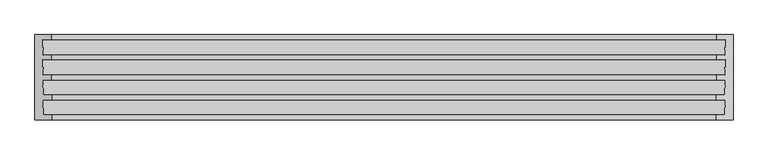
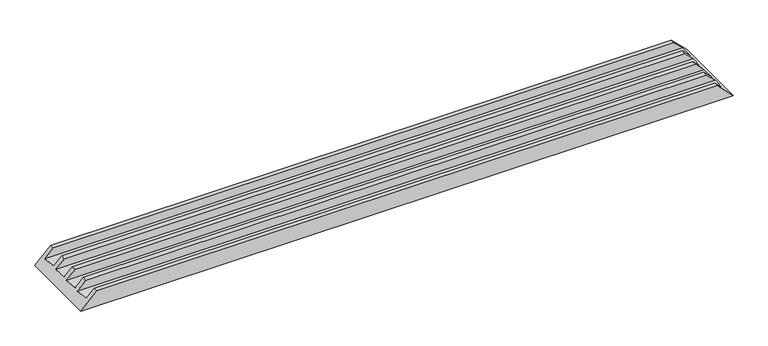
"""IFC4 building model written with IfcOpenShell, lengths in millimetres: proxy geometry, Weiku - Montante - Caixilho quíntuplo 02.2.01.003-003 refilado : Weiku - Montante - Caixilho quíntuplo 02.2.01.003-003 refilado."""

import ifcopenshell
import ifcopenshell.guid

model = None  # the IFC model being written
_history = None  # IfcOwnerHistory: only IFC2X3 demands one
_inside = {}  # id of a spatial element -> (the spatial element, [elements in it])
_under = {}  # id of a project, library or spatial element -> (it, [spatial elements below it])
_declared = {}  # id of a project -> (the project, [libraries it declares])
_typed = {}  # id of a type object -> (the type object, [elements of that type])
_made_of = {}  # id of a material, layer set ... -> (it, [elements and type objects made of it])


def new_model(schema):
    """Start an empty IFC model of exactly this schema.

    Asked for "IFC4X3", IfcOpenShell would pick the latest addendum, in which some entities
    have other attributes; the version numbers below select the first issue.
    IFC2X3 requires an IfcOwnerHistory on every rooted entity: one is made here for all.
    """
    global model, _history
    if schema == "IFC4X3":
        model = ifcopenshell.file(schema_version=(4, 3, 0, 0))
    else:
        model = ifcopenshell.file(schema=schema)
    _inside.clear()
    _under.clear()
    _declared.clear()
    _typed.clear()
    _made_of.clear()
    _history = None
    if model.schema == "IFC2X3":
        org = make("IfcOrganization", Name="unknown")
        user = make(
            "IfcPersonAndOrganization",
            ThePerson=make("IfcPerson", FamilyName="unknown"),
            TheOrganization=org,
        )
        app = make(
            "IfcApplication",
            ApplicationDeveloper=org,
            Version="unknown",
            ApplicationFullName="unknown",
            ApplicationIdentifier="unknown",
        )
        _history = make(
            "IfcOwnerHistory",
            OwningUser=user,
            OwningApplication=app,
            ChangeAction="ADDED",
            CreationDate=0,
        )
    return model


def make(cls, **values):
    """One entity of the class cls with the attributes given. An attribute that is None is left unset."""
    return model.create_entity(
        cls, **{name: value for name, value in values.items() if value is not None}
    )


def rooted(cls, **values):
    """An entity with a GlobalId (a new one), such as an element, a storey or a relation."""
    return make(cls, GlobalId=ifcopenshell.guid.new(), OwnerHistory=_history, **values)


def si_unit(unit_type, name, prefix=None):
    """IfcSIUnit, for example si_unit("LENGTHUNIT", "METRE", prefix="MILLI")."""
    return make("IfcSIUnit", UnitType=unit_type, Prefix=prefix, Name=name)


def assignment(units):
    """IfcUnitAssignment: the units of a project."""
    return None if units is None else make("IfcUnitAssignment", Units=units)


def point(xyz):
    """IfcCartesianPoint."""
    return None if xyz is None else make("IfcCartesianPoint", Coordinates=xyz)


def direction(xyz):
    """IfcDirection."""
    return None if xyz is None else make("IfcDirection", DirectionRatios=xyz)


def frame(location, z_axis=None, x_axis=None):
    """IfcAxis2Placement3D, a coordinate frame: its origin and axes. An axis left out is left unset."""
    return make(
        "IfcAxis2Placement3D",
        Location=point(location),
        Axis=direction(z_axis),
        RefDirection=direction(x_axis),
    )


def origin():
    """The frame at (0, 0, 0) with its axes left unset."""
    return frame((0.0, 0.0, 0.0))


def place(relative_to, where):
    """IfcLocalPlacement: puts the frame where relative to a parent placement (None: the world)."""
    return make(
        "IfcLocalPlacement", PlacementRelTo=relative_to, RelativePlacement=where
    )


def context(
    kind, dimensions, precision=None, world=None, true_north=None, identifier=None
):
    """IfcGeometricRepresentationContext, for example the 3D "Model" context."""
    return make(
        "IfcGeometricRepresentationContext",
        ContextIdentifier=identifier,
        ContextType=kind,
        CoordinateSpaceDimension=dimensions,
        Precision=precision,
        WorldCoordinateSystem=world,
        TrueNorth=true_north,
    )


def project(units=None, contexts=None):
    """IfcProject with its units and contexts."""
    return rooted(
        "IfcProject",
        Name="project",
        RepresentationContexts=contexts,
        UnitsInContext=assignment(units),
    )


def spatial(cls, under=None, at=None, **own):
    """A site, building, storey or space (cls), placed at a placement, below another one or the project."""
    s = rooted(cls, ObjectPlacement=at, **own)
    if under is not None:
        _under.setdefault(under.id(), (under, []))[1].append(s)
    return s


def faces_of(points, faces, orient=None, outer=None):
    """IfcFace entities. A face is a list of loops; a loop is a list of indices into points, from 0.

    orient and outer hold one flag for each loop. By default every Orientation is true, the
    first loop of a face is its IfcFaceOuterBound and the others are IfcFaceBound.
    """
    made = []
    for i, loops in enumerate(faces):
        bounds = []
        for j, loop in enumerate(loops):
            is_outer = j == 0 if outer is None else outer[i][j]
            bounds.append(
                make(
                    "IfcFaceOuterBound" if is_outer else "IfcFaceBound",
                    Bound=make("IfcPolyLoop", Polygon=[points[k] for k in loop]),
                    Orientation=True if orient is None else orient[i][j],
                )
            )
        made.append(make("IfcFace", Bounds=bounds))
    return made


def faceted_brep(points, faces, orient=None, outer=None, voids=None):
    """IfcFacetedBrep: a solid bounded by flat faces; with voids (closed shells), ...WithVoids."""
    shared = [point(p) for p in points]
    hull = make("IfcClosedShell", CfsFaces=faces_of(shared, faces, orient, outer))
    if voids is None:
        return make("IfcFacetedBrep", Outer=hull)
    return make(
        "IfcFacetedBrepWithVoids",
        Outer=hull,
        Voids=[
            make(cls, CfsFaces=faces_of(shared, fs, o, b)) for cls, fs, o, b in voids
        ],
    )


def shape(context_of_items, identifier, shape_type, items):
    """IfcShapeRepresentation: the items that make up one representation, for example the "Body"."""
    return make(
        "IfcShapeRepresentation",
        ContextOfItems=context_of_items,
        RepresentationIdentifier=identifier,
        RepresentationType=shape_type,
        Items=items,
    )


def source(mapping_origin, context_of_items, identifier, shape_type, items):
    """IfcRepresentationMap: a shape defined once, which mapped items show again and again."""
    return make(
        "IfcRepresentationMap",
        MappingOrigin=mapping_origin,
        MappedRepresentation=shape(context_of_items, identifier, shape_type, items),
    )


def transform(
    local_origin,
    x_axis=None,
    y_axis=None,
    z_axis=None,
    scale=None,
    scale2=None,
    scale3=None,
    uniform=True,
):
    """IfcCartesianTransformationOperator3D, or its non-uniform kind. x_axis, y_axis, z_axis: its Axis1, 2, 3."""
    if uniform:
        return make(
            "IfcCartesianTransformationOperator3D",
            Axis1=direction(x_axis),
            Axis2=direction(y_axis),
            LocalOrigin=point(local_origin),
            Scale=scale,
            Axis3=direction(z_axis),
        )
    return make(
        "IfcCartesianTransformationOperator3DnonUniform",
        Axis1=direction(x_axis),
        Axis2=direction(y_axis),
        LocalOrigin=point(local_origin),
        Scale=scale,
        Axis3=direction(z_axis),
        Scale2=scale2,
        Scale3=scale3,
    )


def mapped(mapping_source, mapping_target):
    """IfcMappedItem: shows the shape of a source again, moved by a transform."""
    return make(
        "IfcMappedItem", MappingSource=mapping_source, MappingTarget=mapping_target
    )


def made_of(thing, what):
    """Note that an element or type object is made of a material, layer set ...; save() writes the relation."""
    if what is not None:
        _made_of.setdefault(what.id(), (what, []))[1].append(thing)
    return thing


def element(
    cls,
    number,
    at=None,
    inside=None,
    cuts=None,
    type_object=None,
    material=None,
    context=None,
    identifier="Body",
    shape_type=None,
    held_by="IfcProductDefinitionShape",
    body=None,
    shapes=None,
    **own,
):
    """One element of the class cls, such as IfcWall. Its Tag is "e" and its number.

    at: its placement. inside: the storey or other place that contains it. cuts: it is an
    opening in that element (IfcRelVoidsElement). A single representation is given by context,
    identifier, shape_type and body (its items); several are given by shapes. held_by: the class
    of the entity that holds the representations. save() writes the other relations.
    """
    e = rooted(cls, Tag="e%d" % number, ObjectPlacement=at, **own)
    if body is not None:
        shapes = [shape(context, identifier, shape_type, body)]
    if shapes is not None:
        e.Representation = make(held_by, Representations=shapes)
    if inside is not None:
        _inside.setdefault(inside.id(), (inside, []))[1].append(e)
    if cuts is not None:
        rooted(
            "IfcRelVoidsElement", RelatingBuildingElement=cuts, RelatedOpeningElement=e
        )
    if type_object is not None:
        _typed.setdefault(type_object.id(), (type_object, []))[1].append(e)
    return made_of(e, material)


def aggregate(whole, parts):
    """IfcRelAggregates: a whole, such as a stair, and the parts it consists of."""
    return rooted("IfcRelAggregates", RelatingObject=whole, RelatedObjects=parts)


def save(model, path):
    """Write the relations noted so far, then the file.

    IfcRelAggregates (storeys below a building ...), IfcRelContainedInSpatialStructure (elements
    in a storey), IfcRelDefinesByType, IfcRelAssociatesMaterial and IfcRelDeclares: one each for
    every whole, place, type object, material and project.
    """
    for whole, parts in _under.values():
        aggregate(whole, parts)
    for where, things in _inside.values():
        rooted(
            "IfcRelContainedInSpatialStructure",
            RelatedElements=things,
            RelatingStructure=where,
        )
    for kind, things in _typed.values():
        rooted("IfcRelDefinesByType", RelatedObjects=things, RelatingType=kind)
    for what, things in _made_of.values():
        rooted("IfcRelAssociatesMaterial", RelatedObjects=things, RelatingMaterial=what)
    for by, libraries in _declared.values():
        rooted("IfcRelDeclares", RelatingContext=by, RelatedDefinitions=libraries)
    model.write(path)


def generic_models_01449f6b(model_context):
    return source(origin(), model_context, "Body", "Brep", [
        faceted_brep([(-1049.5, 139.0, 26.0), (-1023.5, 139.0, 52.0), (1023.5, 139.0, 52.0), (1049.5, 139.0, 26.0), (-1051.7229744, 186.0, 23.7770256), (1051.7229744, 186.0, 23.7770256), (-1023.5, 186.0, 52.0), (1023.5, 186.0, 52.0), (-1023.5, 201.0, 52.0), (1023.5, 201.0, 52.0), (-1075.5, 263.0, 0.0), (1075.5, 263.0, 0.0), (1075.5, 0.0, 0.0), (-1075.5, 0.0, 0.0), (-1023.5, 124.0, 52.0), (1023.5, 124.0, 52.0), (-1049.5, 201.0, 26.0), (1049.5, 201.0, 26.0), (-1051.7229744, 248.0, 23.7770256), (1051.7229744, 248.0, 23.7770256), (-1023.5, 248.0, 52.0), (1023.5, 248.0, 52.0), (-1023.5, 263.0, 52.0), (1023.5, 263.0, 52.0), (1023.5, 0.0, 52.0), (-1023.5, 0.0, 52.0), (-1051.7229744, 124.0, 23.7770256), (1051.7229744, 124.0, 23.7770256), (-1023.5, 15.0, 52.0), (-1049.5, 15.0, 26.0), (-1051.7229744, 62.0, 23.7770256), (-1023.5, 62.0, 52.0), (-1023.5, 77.0, 52.0), (-1049.5, 77.0, 26.0), (1049.5, 77.0, 26.0), (1023.5, 77.0, 52.0), (1023.5, 62.0, 52.0), (1051.7229744, 62.0, 23.7770256), (1049.5, 15.0, 26.0), (1023.5, 15.0, 52.0)], [[[0, 1, 2, 3]], [[4, 0, 3, 5]], [[6, 4, 5, 7]], [[8, 6, 7, 9]], [[10, 11, 12, 13]], [[1, 14, 15, 2]], [[16, 8, 9, 17]], [[18, 16, 17, 19]], [[20, 18, 19, 21]], [[22, 20, 21, 23]], [[11, 10, 22, 23]], [[13, 12, 24, 25]], [[14, 26, 27, 15]], [[1, 0, 4, 6, 8, 16, 18, 20, 22, 10, 13, 25, 28, 29, 30, 31, 32, 33, 26, 14]], [[3, 2, 15, 27, 34, 35, 36, 37, 38, 39, 24, 12, 11, 23, 21, 19, 17, 9, 7, 5]], [[28, 25, 24, 39]], [[29, 28, 39, 38]], [[30, 29, 38, 37]], [[31, 30, 37, 36]], [[32, 31, 36, 35]], [[33, 32, 35, 34]], [[26, 33, 34, 27]]]),
    ])


if __name__ == "__main__":
    model = new_model("IFC4")
    model_context = context("Model", 3, world=origin())
    ifc_project = project(units=[si_unit("LENGTHUNIT", "METRE", prefix="MILLI")], contexts=[model_context])
    site = spatial("IfcSite", under=ifc_project)
    building = spatial("IfcBuilding", under=site)
    placement = place(None, origin())
    generic_models_shape = generic_models_01449f6b(model_context)
    element("IfcBuildingElementProxy", 1, Name="Weiku - Montante - Caixilho quíntuplo 02.2.01.003-003 refilado : Weiku - Montante - Caixilho quíntuplo 02.2.01.003-003 refilado", ObjectType="Weiku - Montante - Caixilho quíntuplo 02.2.01.003-003 refilado : Weiku - Montante - Caixilho quíntuplo 02.2.01.003-003 refilado", at=placement, inside=building, context=model_context, shape_type="MappedRepresentation", body=[
        mapped(generic_models_shape, transform((0.0, 0.0, 0.0), x_axis=(1.0, 0.0, 0.0), y_axis=(0.0, 1.0, 0.0), z_axis=(0.0, 0.0, 1.0))),
    ])
    save(model, "model.ifc")
